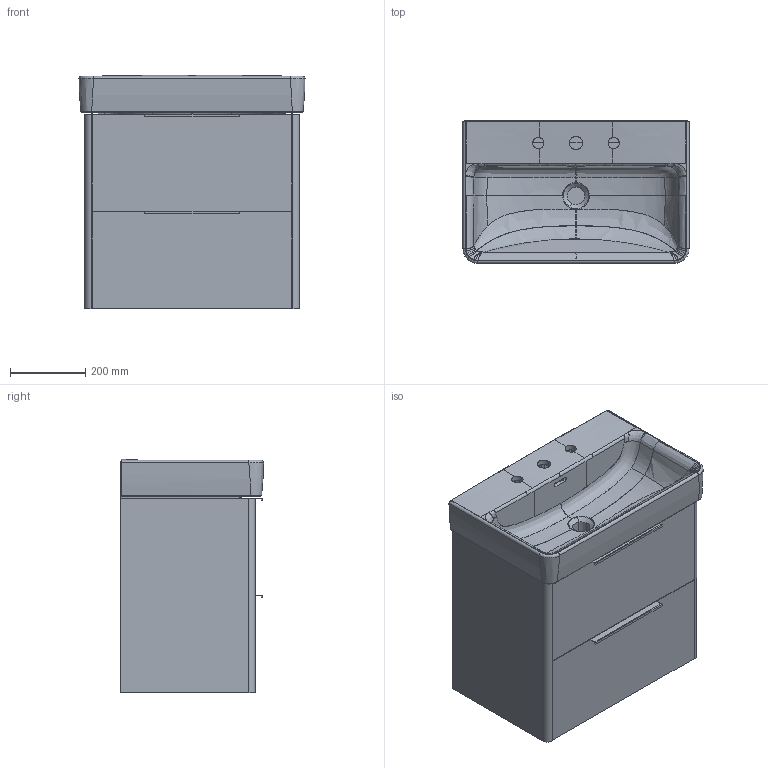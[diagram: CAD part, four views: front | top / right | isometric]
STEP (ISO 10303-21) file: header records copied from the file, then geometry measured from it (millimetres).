
FILE_DESCRIPTION(/* description */ (''),/* implementation_level */ '2;1');
FILE_NAME(/* name */ 'C:\Users\User33\Desktop\Base\3D01_402212.stp',/* time_stamp */ '2018-05-05T14:34:47+02:00',/* author */ ('User33'),/* organization */ (''),/* preprocessor_version */ 'ST-DEVELOPER v16.13',/* originating_system */ 'Autodesk Inventor 2018',/* authorisation */ '');
FILE_SCHEMA (('AUTOMOTIVE_DESIGN { 1 0 10303 214 3 1 1 }'));
Products named in the file (24): Scheletro monoblocco curvo 550; Catena_superiore; Frontale cassetto superiore; Catena inferiore; Fianco sx; Fianco dx; Fondo mobile; Fondo cassetto superiore; Fondo cassetto inferiore; Retro cassetto superiore; Fascia rialzo; Retro_cassetto inferiore; Frontale cassetto inferiore; Maniglia superiore; maniglia inferiore; 270-84; 270-84_1; 270-84_2; 270-84_3; 270-84_MIR1; 270-84_1_MIR1; 270-84_2_MIR1; 270-84_3_MIR1; HY18959......1_A
Assembly tree (25 placements, depth 3):
  Scheletro monoblocco curvo 550
    Catena_superiore
    Frontale cassetto superiore
    Catena inferiore
    Fianco sx
    Fianco dx
    Fondo mobile
    Fondo cassetto superiore
    Fondo cassetto inferiore
    Retro cassetto superiore
    Fascia rialzo
    Retro_cassetto inferiore
    Frontale cassetto inferiore
    Maniglia superiore
    maniglia inferiore
    270-84  x2
      270-84_1
      270-84_2
      270-84_3
    270-84_MIR1  x2
      270-84_1_MIR1
      270-84_2_MIR1
      270-84_3_MIR1
    HY18959......1_A
Bounding box: 599.94 x 379.97 x 619.54 mm (x, y, z)
Volume: 22514787.9 mm3; surface area: 4211808.5 mm2
Topology: 28 solids, 503 shells, 1422 faces, 5785 edges, 4924 vertices
Faces by surface type: plane 821, bspline 370, cylinder 214, cone 13, torus 2, sphere 2
Full cylindrical faces by diameter (mm): 4 x16, 4.1 x4, 5 x8, 5.1 x4, 6 x8, 6.3 x36
Entity records: 160602 total; most frequent: CARTESIAN_POINT 126217, ORIENTED_EDGE 5968, DIRECTION 4970, EDGE_CURVE 4591, VERTEX_POINT 4160, B_SPLINE_CURVE_WITH_KNOTS 1902, AXIS2_PLACEMENT_3D 1704, LINE 1562
